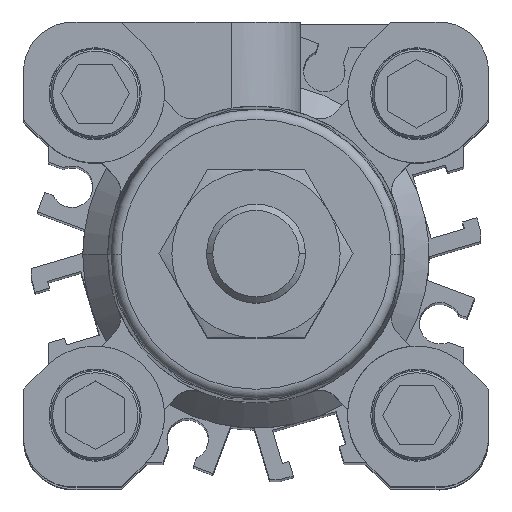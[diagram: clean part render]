
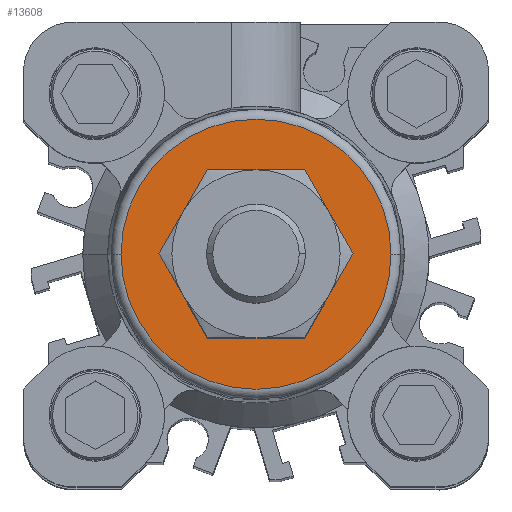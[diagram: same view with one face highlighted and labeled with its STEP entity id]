
A CAD part, top view. The second image highlights one B-rep face of the part: STEP entity #13608.
In plain terms, the highlighted planar face has unit normal (0, 0, 1).
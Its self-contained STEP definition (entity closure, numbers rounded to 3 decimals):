
#193 = DIRECTION ( 'NONE',  ( 1., 0., 0. ) ) ;
#591 = AXIS2_PLACEMENT_3D ( 'NONE', #6421, #3035, #10574 ) ;
#849 = CIRCLE ( 'NONE', #4698, 13.65 ) ;
#987 = FACE_BOUND ( 'NONE', #10451, .T. ) ;
#1026 = AXIS2_PLACEMENT_3D ( 'NONE', #8110, #7038, #7963 ) ;
#1178 = VERTEX_POINT ( 'NONE', #6591 ) ;
#1584 = VERTEX_POINT ( 'NONE', #11521 ) ;
#1744 = EDGE_CURVE ( 'NONE', #1178, #1584, #5335, .T. ) ;
#1795 = EDGE_LOOP ( 'NONE', ( #3646, #4061 ) ) ;
#2088 = EDGE_CURVE ( 'NONE', #1584, #1178, #8991, .T. ) ;
#2327 = CARTESIAN_POINT ( 'NONE',  ( 0., 0., 43.2 ) ) ;
#2858 = AXIS2_PLACEMENT_3D ( 'NONE', #2327, #13343, #193 ) ;
#3035 = DIRECTION ( 'NONE',  ( 0., 0., -1. ) ) ;
#3646 = ORIENTED_EDGE ( 'NONE', *, *, #4032, .T. ) ;
#4032 = EDGE_CURVE ( 'NONE', #12799, #12780, #6912, .T. ) ;
#4061 = ORIENTED_EDGE ( 'NONE', *, *, #12734, .T. ) ;
#4266 = DIRECTION ( 'NONE',  ( 1., 0., 0. ) ) ;
#4330 = CARTESIAN_POINT ( 'NONE',  ( 0., 0., 43.2 ) ) ;
#4405 = DIRECTION ( 'NONE',  ( 0., 0., 1. ) ) ;
#4574 = CARTESIAN_POINT ( 'NONE',  ( 13.65, 0., 43.2 ) ) ;
#4698 = AXIS2_PLACEMENT_3D ( 'NONE', #13107, #9829, #7620 ) ;
#5335 = CIRCLE ( 'NONE', #2858, 6. ) ;
#6421 = CARTESIAN_POINT ( 'NONE',  ( 0., 0., 43.2 ) ) ;
#6591 = CARTESIAN_POINT ( 'NONE',  ( -6., 0., 43.2 ) ) ;
#6912 = CIRCLE ( 'NONE', #1026, 13.65 ) ;
#7038 = DIRECTION ( 'NONE',  ( 0., 0., 1. ) ) ;
#7265 = ORIENTED_EDGE ( 'NONE', *, *, #1744, .T. ) ;
#7620 = DIRECTION ( 'NONE',  ( 1., 0., 0. ) ) ;
#7963 = DIRECTION ( 'NONE',  ( 1., 0., 0. ) ) ;
#8110 = CARTESIAN_POINT ( 'NONE',  ( 0., 0., 43.2 ) ) ;
#8991 = CIRCLE ( 'NONE', #591, 6. ) ;
#9660 = FACE_OUTER_BOUND ( 'NONE', #1795, .T. ) ;
#9829 = DIRECTION ( 'NONE',  ( 0., 0., 1. ) ) ;
#10451 = EDGE_LOOP ( 'NONE', ( #7265, #11532 ) ) ;
#10574 = DIRECTION ( 'NONE',  ( 1., 0., 0. ) ) ;
#10624 = AXIS2_PLACEMENT_3D ( 'NONE', #4330, #4405, #4266 ) ;
#11521 = CARTESIAN_POINT ( 'NONE',  ( 6., 0., 43.2 ) ) ;
#11532 = ORIENTED_EDGE ( 'NONE', *, *, #2088, .T. ) ;
#12189 = CARTESIAN_POINT ( 'NONE',  ( -13.65, 0., 43.2 ) ) ;
#12734 = EDGE_CURVE ( 'NONE', #12780, #12799, #849, .T. ) ;
#12780 = VERTEX_POINT ( 'NONE', #12189 ) ;
#12799 = VERTEX_POINT ( 'NONE', #4574 ) ;
#13107 = CARTESIAN_POINT ( 'NONE',  ( 0., 0., 43.2 ) ) ;
#13343 = DIRECTION ( 'NONE',  ( 0., 0., -1. ) ) ;
#13608 = ADVANCED_FACE ( 'NONE', ( #987, #9660 ), #14001, .T. ) ;
#14001 = PLANE ( 'NONE',  #10624 ) ;
